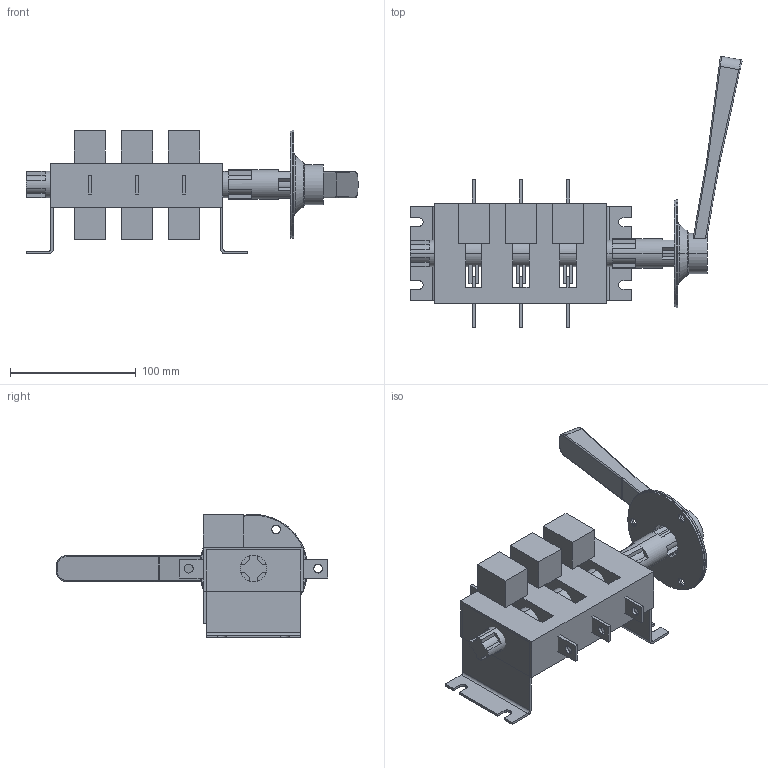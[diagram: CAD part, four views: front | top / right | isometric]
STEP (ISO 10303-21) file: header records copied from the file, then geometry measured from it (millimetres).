
FILE_DESCRIPTION (( 'STEP AP203' ), '1' );
FILE_NAME ('Âûêëþ÷àòåëü-ðàçúåäèíèòåëü ÂÐÓ32Ó-31À31250.STEP', '2018-09-04T06:06:05', ( '' ), ( '' ), 'SwSTEP 2.0', 'SolidWorks 2017', '' );
FILE_SCHEMA (( 'CONFIG_CONTROL_DESIGN' ));
Length unit declared in the file: millimetre
Products named in the file (1): Âûêëþ÷àòåëü-ðàçúåäèíèòåëü ÂÐÓ32Ó-31À31250
Bounding box: 264.22 x 215.82 x 98.25 mm (x, y, z)
Volume: 609928.4 mm3; surface area: 170874.5 mm2
Topology: 20 solids, 20 shells, 380 faces, 962 edges, 629 vertices
Faces by surface type: plane 264, cylinder 100, torus 8, cone 4, bspline 4
Entity records: 11634 total; most frequent: CARTESIAN_POINT 2157, DIRECTION 1962, ORIENTED_EDGE 1924, EDGE_CURVE 962, VECTOR 686, LINE 686, AXIS2_PLACEMENT_3D 638, VERTEX_POINT 629
